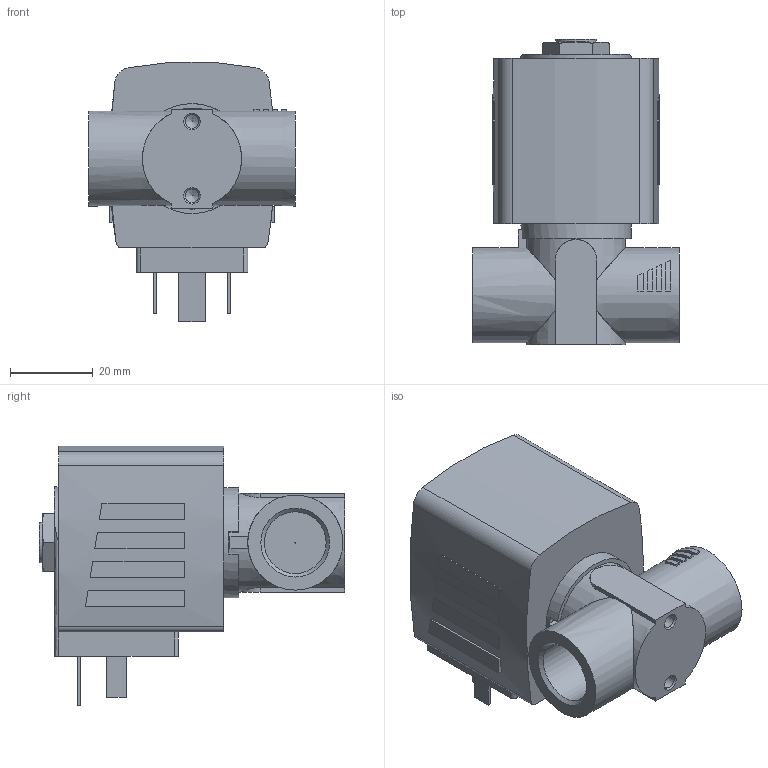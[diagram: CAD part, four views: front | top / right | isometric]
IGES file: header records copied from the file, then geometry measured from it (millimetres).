
Start section: Data from Parasolid IGES Translator 26.0.171, Copyright(c) 2006 Siemens PLM Software. All Rights Reserved.
Global section: file name: 6240-373487-2_2-way_solenoid_valve__pilot-controlled.igs; native system: By Siemens PLM Incorporated; preprocessor: XPlus GENERIC/IGES 26.0.171; author: Noname; organization: Noname; date: 20240507.175514; units: millimetre
Bounding box: 50 x 74 x 62.83 mm (x, y, z)
Surface area: 18645.7 mm2 (no closed solid volume)
Topology: 0 solids, 0 shells, 158 faces, 792 edges, 785 vertices
Faces by surface type: extrusion 109, revolution 49
